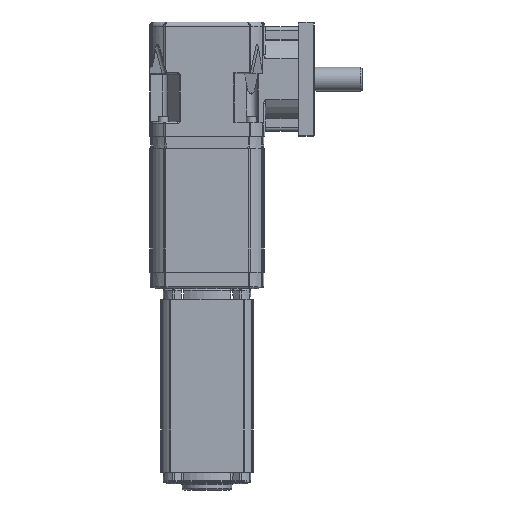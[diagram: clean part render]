
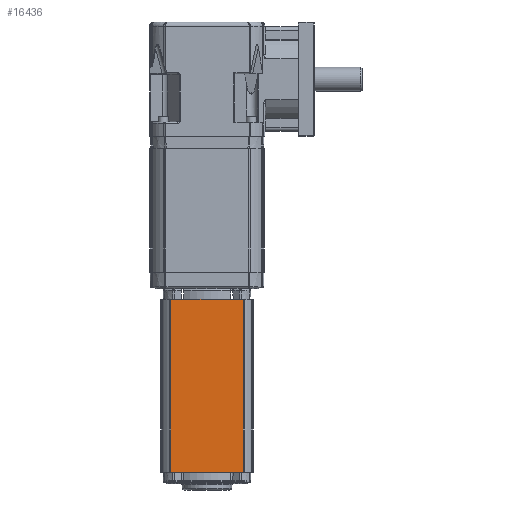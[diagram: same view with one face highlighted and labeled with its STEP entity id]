
A CAD part, front view. The second image highlights one B-rep face of the part: STEP entity #16436.
In plain terms, the highlighted planar face has unit normal (0, -1, 0).
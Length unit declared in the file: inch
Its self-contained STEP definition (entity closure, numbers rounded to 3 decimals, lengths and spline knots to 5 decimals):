
#3382 = CARTESIAN_POINT ( 'NONE',  ( -1.1475, -1.442, -12.349 ) ) ;
#3534 = CARTESIAN_POINT ( 'NONE',  ( -1.1475, -1.442, -6.844 ) ) ;
#5086 = VERTEX_POINT ( 'NONE', #24484 ) ;
#9387 = DIRECTION ( 'NONE',  ( 1., 0., 0. ) ) ;
#9979 = VECTOR ( 'NONE', #18874, 39.37008 ) ;
#10312 = EDGE_CURVE ( 'NONE', #57012, #5086, #11814, .T. ) ;
#11814 = LINE ( 'NONE', #20089, #9979 ) ;
#12132 = EDGE_LOOP ( 'NONE', ( #63260, #33405, #24410, #33466 ) ) ;
#14353 = LINE ( 'NONE', #3534, #74295 ) ;
#15010 = PLANE ( 'NONE',  #52565 ) ;
#16436 = ADVANCED_FACE ( 'NONE', ( #56133 ), #15010, .T. ) ;
#18161 = DIRECTION ( 'NONE',  ( 0., 0., -1. ) ) ;
#18874 = DIRECTION ( 'NONE',  ( -1., 0., 0. ) ) ;
#20089 = CARTESIAN_POINT ( 'NONE',  ( 1.1275, -1.442, -12.214 ) ) ;
#21530 = VECTOR ( 'NONE', #18161, 39.37008 ) ;
#24410 = ORIENTED_EDGE ( 'NONE', *, *, #57388, .T. ) ;
#24484 = CARTESIAN_POINT ( 'NONE',  ( -1.1275, -1.442, -12.214 ) ) ;
#25347 = VERTEX_POINT ( 'NONE', #33552 ) ;
#26364 = DIRECTION ( 'NONE',  ( 0., 0., 1. ) ) ;
#30833 = VECTOR ( 'NONE', #26364, 39.37008 ) ;
#31659 = EDGE_CURVE ( 'NONE', #25347, #5086, #52314, .T. ) ;
#33405 = ORIENTED_EDGE ( 'NONE', *, *, #10312, .F. ) ;
#33466 = ORIENTED_EDGE ( 'NONE', *, *, #58501, .F. ) ;
#33552 = CARTESIAN_POINT ( 'NONE',  ( -1.1275, -1.442, -6.844 ) ) ;
#37852 = CARTESIAN_POINT ( 'NONE',  ( 1.1275, -1.442, -12.214 ) ) ;
#40733 = VERTEX_POINT ( 'NONE', #55491 ) ;
#44304 = DIRECTION ( 'NONE',  ( 0., -1., 0. ) ) ;
#49877 = CARTESIAN_POINT ( 'NONE',  ( 1.1275, -1.442, -12.349 ) ) ;
#52314 = LINE ( 'NONE', #69884, #21530 ) ;
#52565 = AXIS2_PLACEMENT_3D ( 'NONE', #3382, #44304, #9387 ) ;
#55491 = CARTESIAN_POINT ( 'NONE',  ( 1.1275, -1.442, -6.844 ) ) ;
#55778 = DIRECTION ( 'NONE',  ( 1., 0., 0. ) ) ;
#56133 = FACE_OUTER_BOUND ( 'NONE', #12132, .T. ) ;
#57012 = VERTEX_POINT ( 'NONE', #37852 ) ;
#57388 = EDGE_CURVE ( 'NONE', #57012, #40733, #75246, .T. ) ;
#58501 = EDGE_CURVE ( 'NONE', #25347, #40733, #14353, .T. ) ;
#63260 = ORIENTED_EDGE ( 'NONE', *, *, #31659, .T. ) ;
#69884 = CARTESIAN_POINT ( 'NONE',  ( -1.1275, -1.442, -12.349 ) ) ;
#74295 = VECTOR ( 'NONE', #55778, 39.37008 ) ;
#75246 = LINE ( 'NONE', #49877, #30833 ) ;
